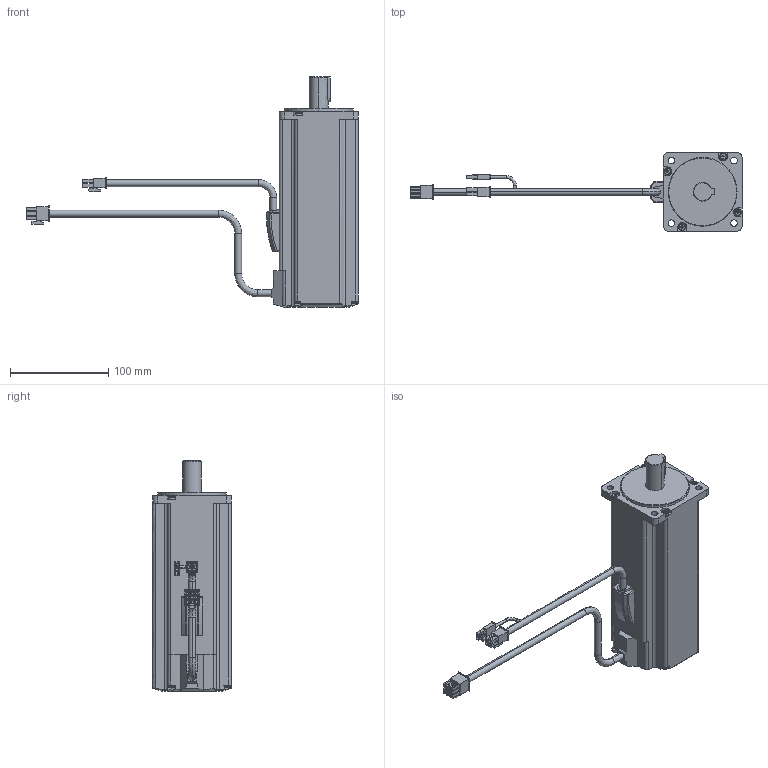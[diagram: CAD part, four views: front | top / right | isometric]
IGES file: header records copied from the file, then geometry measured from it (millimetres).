
Start section:  PTC IGES file: 10001047_rsmz-10bq-bh_brake.igs
Global section: file name: 10001047_rsmz-10bq-bh_brake.igs; native system: Pro/ENGINEER by Parametric Technology Corporation; preprocessor: 2004440; author: Administrator; organization: Unknown; date: 070829.201749; units: millimetre
Bounding box: 337.7 x 80 x 234 mm (x, y, z)
Volume: 1139027.7 mm3; surface area: 95571.9 mm2
Topology: 1 solids, 1 shells, 501 faces, 1267 edges, 822 vertices
Faces by surface type: bspline 361, revolution 140
